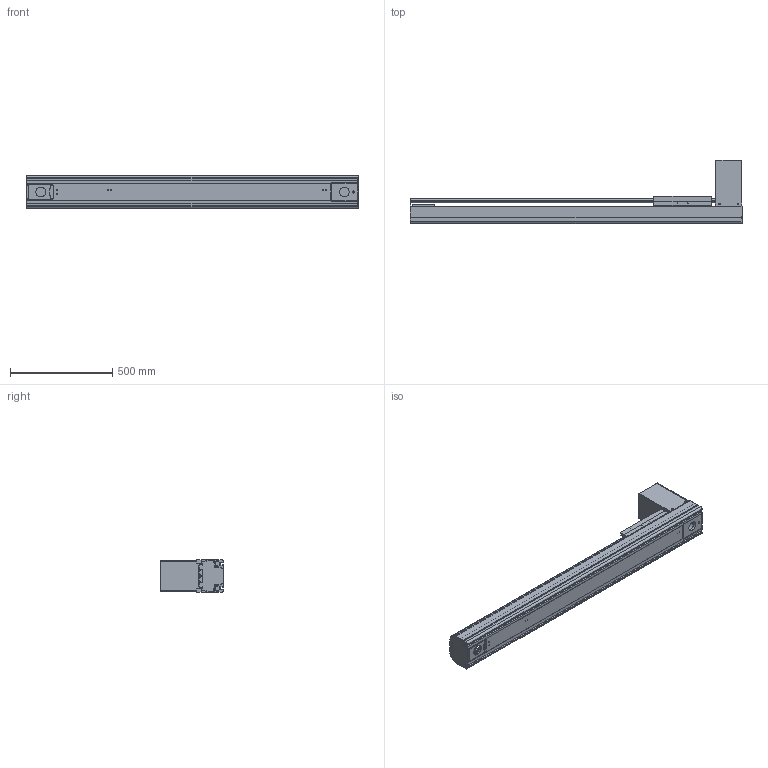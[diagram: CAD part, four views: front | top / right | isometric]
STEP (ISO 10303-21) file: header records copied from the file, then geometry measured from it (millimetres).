
FILE_DESCRIPTION((''),'2;1');
FILE_NAME('BE50G-BT-L19N-A5_IGS_PRT','2017-06-18T',(' '),(''),'PRO/ENGINEER BY PARAMETRIC TECHNOLOGY CORPORATION, 2015030','PRO/ENGINEER BY PARAMETRIC TECHNOLOGY CORPORATION, 2015030','');
FILE_SCHEMA(('CONFIG_CONTROL_DESIGN'));
Products named in the file (1): BE50G-BT-L19N-A5_IGS_PRT
Bounding box: 1620 x 309 x 160 mm (x, y, z)
Volume: 7531270.2 mm3; surface area: 3071793 mm2
Topology: 3 solids, 147 shells, 1910 faces, 5372 edges, 3562 vertices
Faces by surface type: cylinder 953, plane 778, cone 136, sphere 23, torus 20
Entity records: 64259 total; most frequent: CARTESIAN_POINT 14210, DIRECTION 10512, ORIENTED_EDGE 10048, EDGE_CURVE 5298, AXIS2_PLACEMENT_3D 3914, VERTEX_POINT 3562, VECTOR 2684, LINE 2684
